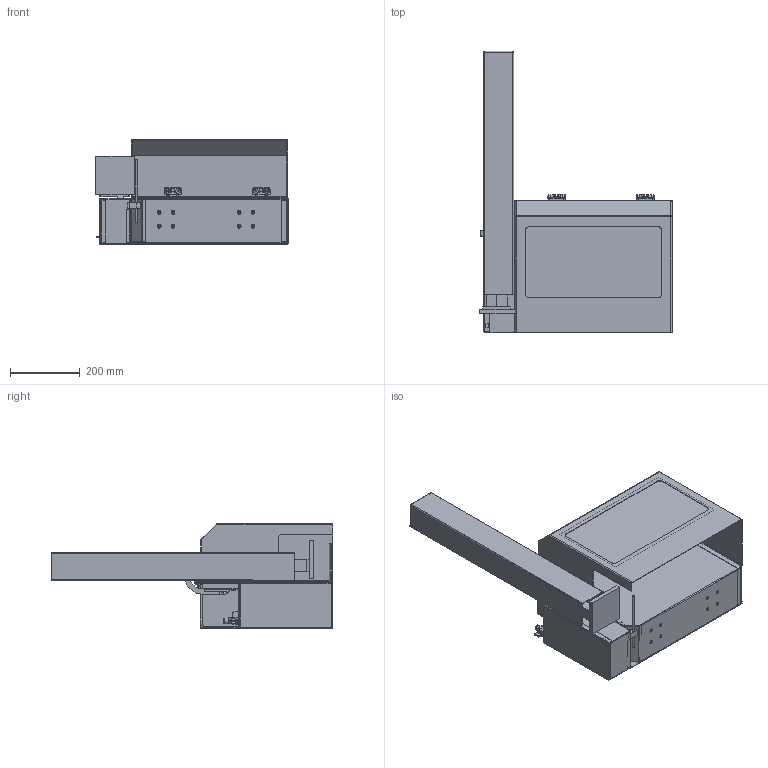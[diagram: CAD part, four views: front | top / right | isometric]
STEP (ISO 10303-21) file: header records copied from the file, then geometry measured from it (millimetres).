
FILE_DESCRIPTION (( 'STEP AP203' ), '1' );
FILE_NAME ('400A(500mm俴最泂梓旋).STEP', '2019-02-11T02:07:00', ( '' ), ( '' ), 'SwSTEP 2.0', 'SolidWorks 2017', '' );
FILE_SCHEMA (( 'CONFIG_CONTROL_DESIGN' ));
Length unit declared in the file: millimetre
Products named in the file (1): 400A(500mm俴最泂梓旋)
Bounding box: 553 x 810 x 300.5 mm (x, y, z)
Volume: 2651134.7 mm3; surface area: 2868790 mm2
Topology: 59 solids, 59 shells, 2149 faces, 5478 edges, 3562 vertices
Faces by surface type: plane 1135, cylinder 850, cone 128, bspline 36
Entity records: 66752 total; most frequent: CARTESIAN_POINT 13610, DIRECTION 11211, ORIENTED_EDGE 10932, EDGE_CURVE 5466, AXIS2_PLACEMENT_3D 3955, VERTEX_POINT 3562, VECTOR 3301, LINE 3301
